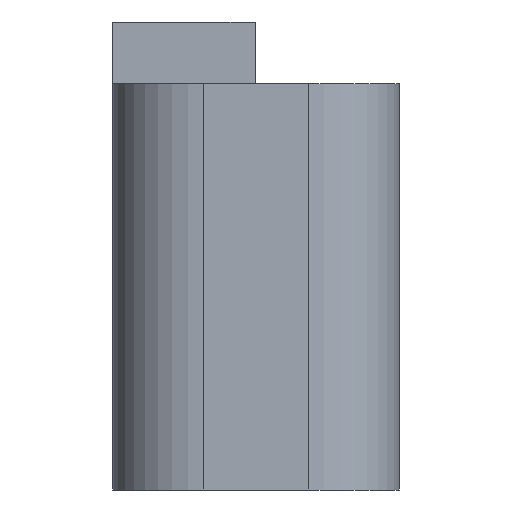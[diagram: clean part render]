
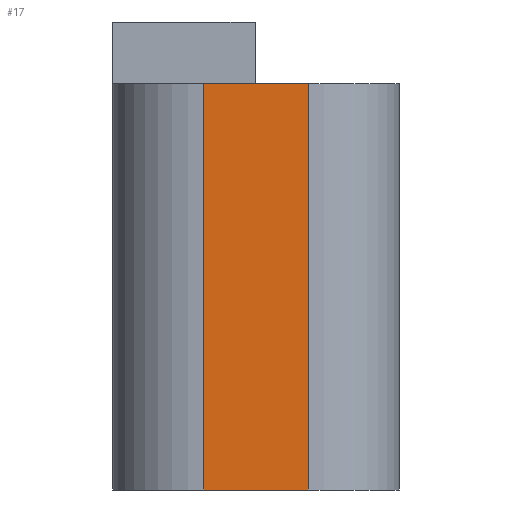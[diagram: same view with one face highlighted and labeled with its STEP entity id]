
A CAD part, left-side view. The second image highlights one B-rep face of the part: STEP entity #17.
In plain terms, the highlighted planar face has unit normal (-1, 0, 0).
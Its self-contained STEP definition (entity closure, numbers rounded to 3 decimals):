
#17 = ADVANCED_FACE('',(#18),#32,.F.);
#18 = FACE_BOUND('',#19,.F.);
#19 = EDGE_LOOP('',(#20,#55,#83,#111));
#20 = ORIENTED_EDGE('',*,*,#21,.F.);
#21 = EDGE_CURVE('',#22,#24,#26,.T.);
#22 = VERTEX_POINT('',#23);
#23 = CARTESIAN_POINT('',(-15.,-19.9,-0.5));
#24 = VERTEX_POINT('',#25);
#25 = CARTESIAN_POINT('',(-15.,-18.17,-0.5));
#26 = SURFACE_CURVE('',#27,(#31,#43),.PCURVE_S1.);
#27 = LINE('',#28,#29);
#28 = CARTESIAN_POINT('',(-15.,-21.4,-0.5));
#29 = VECTOR('',#30,1.);
#30 = DIRECTION('',(0.,1.,0.));
#31 = PCURVE('',#32,#37);
#32 = PLANE('',#33);
#33 = AXIS2_PLACEMENT_3D('',#34,#35,#36);
#34 = CARTESIAN_POINT('',(-15.,-21.4,-7.2));
#35 = DIRECTION('',(1.,0.,0.));
#36 = DIRECTION('',(0.,0.,1.));
#37 = DEFINITIONAL_REPRESENTATION('',(#38),#42);
#38 = LINE('',#39,#40);
#39 = CARTESIAN_POINT('',(6.7,0.));
#40 = VECTOR('',#41,1.);
#41 = DIRECTION('',(0.,-1.));
#42 = ( GEOMETRIC_REPRESENTATION_CONTEXT(2) 
PARAMETRIC_REPRESENTATION_CONTEXT() REPRESENTATION_CONTEXT('2D SPACE',''
  ) );
#43 = PCURVE('',#44,#49);
#44 = PLANE('',#45);
#45 = AXIS2_PLACEMENT_3D('',#46,#47,#48);
#46 = CARTESIAN_POINT('',(-15.,-21.4,-0.5));
#47 = DIRECTION('',(0.,0.,1.));
#48 = DIRECTION('',(1.,0.,0.));
#49 = DEFINITIONAL_REPRESENTATION('',(#50),#54);
#50 = LINE('',#51,#52);
#51 = CARTESIAN_POINT('',(0.,0.));
#52 = VECTOR('',#53,1.);
#53 = DIRECTION('',(0.,1.));
#54 = ( GEOMETRIC_REPRESENTATION_CONTEXT(2) 
PARAMETRIC_REPRESENTATION_CONTEXT() REPRESENTATION_CONTEXT('2D SPACE',''
  ) );
#55 = ORIENTED_EDGE('',*,*,#56,.F.);
#56 = EDGE_CURVE('',#57,#22,#59,.T.);
#57 = VERTEX_POINT('',#58);
#58 = CARTESIAN_POINT('',(-15.,-19.9,-7.2));
#59 = SURFACE_CURVE('',#60,(#64,#71),.PCURVE_S1.);
#60 = LINE('',#61,#62);
#61 = CARTESIAN_POINT('',(-15.,-19.9,-7.2));
#62 = VECTOR('',#63,1.);
#63 = DIRECTION('',(0.,0.,1.));
#64 = PCURVE('',#32,#65);
#65 = DEFINITIONAL_REPRESENTATION('',(#66),#70);
#66 = LINE('',#67,#68);
#67 = CARTESIAN_POINT('',(0.,-1.5));
#68 = VECTOR('',#69,1.);
#69 = DIRECTION('',(1.,0.));
#70 = ( GEOMETRIC_REPRESENTATION_CONTEXT(2) 
PARAMETRIC_REPRESENTATION_CONTEXT() REPRESENTATION_CONTEXT('2D SPACE',''
  ) );
#71 = PCURVE('',#72,#77);
#72 = CYLINDRICAL_SURFACE('',#73,1.5);
#73 = AXIS2_PLACEMENT_3D('',#74,#75,#76);
#74 = CARTESIAN_POINT('',(-13.5,-19.9,-7.2));
#75 = DIRECTION('',(0.,0.,1.));
#76 = DIRECTION('',(-1.,-0.,0.));
#77 = DEFINITIONAL_REPRESENTATION('',(#78),#82);
#78 = LINE('',#79,#80);
#79 = CARTESIAN_POINT('',(0.,0.));
#80 = VECTOR('',#81,1.);
#81 = DIRECTION('',(0.,1.));
#82 = ( GEOMETRIC_REPRESENTATION_CONTEXT(2) 
PARAMETRIC_REPRESENTATION_CONTEXT() REPRESENTATION_CONTEXT('2D SPACE',''
  ) );
#83 = ORIENTED_EDGE('',*,*,#84,.T.);
#84 = EDGE_CURVE('',#57,#85,#87,.T.);
#85 = VERTEX_POINT('',#86);
#86 = CARTESIAN_POINT('',(-15.,-18.17,-7.2));
#87 = SURFACE_CURVE('',#88,(#92,#99),.PCURVE_S1.);
#88 = LINE('',#89,#90);
#89 = CARTESIAN_POINT('',(-15.,-21.4,-7.2));
#90 = VECTOR('',#91,1.);
#91 = DIRECTION('',(0.,1.,0.));
#92 = PCURVE('',#32,#93);
#93 = DEFINITIONAL_REPRESENTATION('',(#94),#98);
#94 = LINE('',#95,#96);
#95 = CARTESIAN_POINT('',(0.,0.));
#96 = VECTOR('',#97,1.);
#97 = DIRECTION('',(0.,-1.));
#98 = ( GEOMETRIC_REPRESENTATION_CONTEXT(2) 
PARAMETRIC_REPRESENTATION_CONTEXT() REPRESENTATION_CONTEXT('2D SPACE',''
  ) );
#99 = PCURVE('',#100,#105);
#100 = PLANE('',#101);
#101 = AXIS2_PLACEMENT_3D('',#102,#103,#104);
#102 = CARTESIAN_POINT('',(-15.,-21.4,-7.2));
#103 = DIRECTION('',(0.,0.,1.));
#104 = DIRECTION('',(1.,0.,0.));
#105 = DEFINITIONAL_REPRESENTATION('',(#106),#110);
#106 = LINE('',#107,#108);
#107 = CARTESIAN_POINT('',(0.,0.));
#108 = VECTOR('',#109,1.);
#109 = DIRECTION('',(0.,1.));
#110 = ( GEOMETRIC_REPRESENTATION_CONTEXT(2) 
PARAMETRIC_REPRESENTATION_CONTEXT() REPRESENTATION_CONTEXT('2D SPACE',''
  ) );
#111 = ORIENTED_EDGE('',*,*,#112,.T.);
#112 = EDGE_CURVE('',#85,#24,#113,.T.);
#113 = SURFACE_CURVE('',#114,(#118,#125),.PCURVE_S1.);
#114 = LINE('',#115,#116);
#115 = CARTESIAN_POINT('',(-15.,-18.17,-7.2));
#116 = VECTOR('',#117,1.);
#117 = DIRECTION('',(0.,0.,1.));
#118 = PCURVE('',#32,#119);
#119 = DEFINITIONAL_REPRESENTATION('',(#120),#124);
#120 = LINE('',#121,#122);
#121 = CARTESIAN_POINT('',(0.,-3.23));
#122 = VECTOR('',#123,1.);
#123 = DIRECTION('',(1.,0.));
#124 = ( GEOMETRIC_REPRESENTATION_CONTEXT(2) 
PARAMETRIC_REPRESENTATION_CONTEXT() REPRESENTATION_CONTEXT('2D SPACE',''
  ) );
#125 = PCURVE('',#126,#131);
#126 = CYLINDRICAL_SURFACE('',#127,1.5);
#127 = AXIS2_PLACEMENT_3D('',#128,#129,#130);
#128 = CARTESIAN_POINT('',(-13.5,-18.17,-7.2));
#129 = DIRECTION('',(0.,0.,1.));
#130 = DIRECTION('',(-1.,-0.,0.));
#131 = DEFINITIONAL_REPRESENTATION('',(#132),#136);
#132 = LINE('',#133,#134);
#133 = CARTESIAN_POINT('',(-0.,0.));
#134 = VECTOR('',#135,1.);
#135 = DIRECTION('',(-0.,1.));
#136 = ( GEOMETRIC_REPRESENTATION_CONTEXT(2) 
PARAMETRIC_REPRESENTATION_CONTEXT() REPRESENTATION_CONTEXT('2D SPACE',''
  ) );
